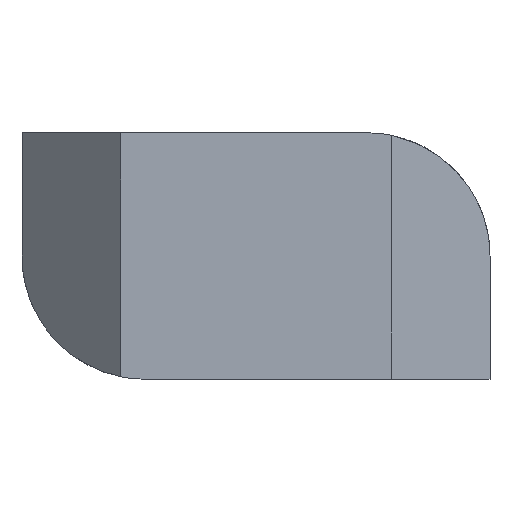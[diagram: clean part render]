
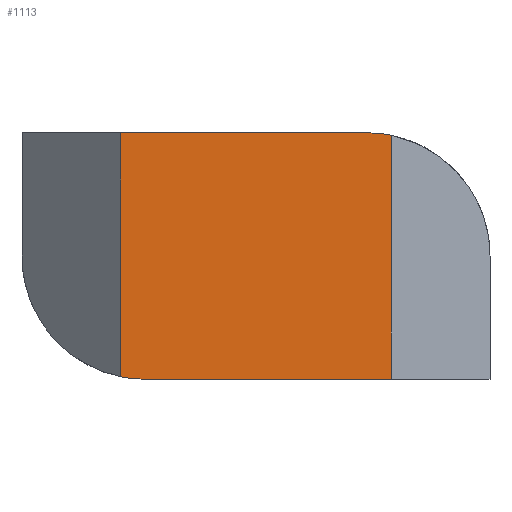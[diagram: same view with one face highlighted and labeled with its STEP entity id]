
A CAD part, front view. The second image highlights one B-rep face of the part: STEP entity #1113.
In plain terms, the highlighted planar face has unit normal (0, -1, 0).
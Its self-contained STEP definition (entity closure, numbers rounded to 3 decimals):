
#26=PLANE('',#1209);
#100=FACE_OUTER_BOUND('',#163,.T.);
#163=EDGE_LOOP('',(#843,#844,#845,#846,#847,#848));
#215=CIRCLE('',#1204,5.);
#216=CIRCLE('',#1210,5.);
#297=LINE('',#2636,#399);
#298=LINE('',#2640,#400);
#299=LINE('',#2642,#401);
#300=LINE('',#2643,#402);
#399=VECTOR('',#1379,1000.);
#400=VECTOR('',#1382,1000.);
#401=VECTOR('',#1385,1000.);
#402=VECTOR('',#1386,1000.);
#504=VERTEX_POINT('',#2582);
#505=VERTEX_POINT('',#2584);
#524=VERTEX_POINT('',#2626);
#527=VERTEX_POINT('',#2634);
#528=VERTEX_POINT('',#2638);
#529=VERTEX_POINT('',#2639);
#629=EDGE_CURVE('',#504,#505,#215,.T.);
#655=EDGE_CURVE('',#524,#527,#297,.T.);
#656=EDGE_CURVE('',#528,#529,#298,.T.);
#657=EDGE_CURVE('',#529,#524,#216,.T.);
#658=EDGE_CURVE('',#505,#527,#299,.T.);
#659=EDGE_CURVE('',#528,#504,#300,.T.);
#843=ORIENTED_EDGE('',*,*,#656,.T.);
#844=ORIENTED_EDGE('',*,*,#657,.T.);
#845=ORIENTED_EDGE('',*,*,#655,.T.);
#846=ORIENTED_EDGE('',*,*,#658,.F.);
#847=ORIENTED_EDGE('',*,*,#629,.F.);
#848=ORIENTED_EDGE('',*,*,#659,.F.);
#1113=ADVANCED_FACE('',(#100),#26,.F.);
#1204=AXIS2_PLACEMENT_3D('',#2585,#1345,#1346);
#1209=AXIS2_PLACEMENT_3D('',#2637,#1380,#1381);
#1210=AXIS2_PLACEMENT_3D('',#2641,#1383,#1384);
#1345=DIRECTION('center_axis',(0.,1.,0.));
#1346=DIRECTION('ref_axis',(-1.,0.,0.));
#1379=DIRECTION('',(1.,0.,0.));
#1380=DIRECTION('center_axis',(0.,1.,0.));
#1381=DIRECTION('ref_axis',(-1.,0.,0.));
#1382=DIRECTION('',(0.,0.,-1.));
#1383=DIRECTION('center_axis',(0.,-1.,0.));
#1384=DIRECTION('ref_axis',(-1.,0.,0.));
#1385=DIRECTION('',(0.,0.,-1.));
#1386=DIRECTION('',(1.,0.,0.));
#2582=CARTESIAN_POINT('',(14.,-6.,10.));
#2584=CARTESIAN_POINT('',(15.,-6.,9.899));
#2585=CARTESIAN_POINT('Origin',(14.,-6.,5.));
#2626=CARTESIAN_POINT('',(5.,-6.,0.));
#2634=CARTESIAN_POINT('',(15.,-6.,0.));
#2636=CARTESIAN_POINT('',(15.,-6.,0.));
#2637=CARTESIAN_POINT('Origin',(15.,-6.,10.));
#2638=CARTESIAN_POINT('',(4.,-6.,10.));
#2639=CARTESIAN_POINT('',(4.,-6.,0.101));
#2640=CARTESIAN_POINT('',(4.,-6.,10.));
#2641=CARTESIAN_POINT('Origin',(5.,-6.,5.));
#2642=CARTESIAN_POINT('',(15.,-6.,10.));
#2643=CARTESIAN_POINT('',(15.,-6.,10.));
